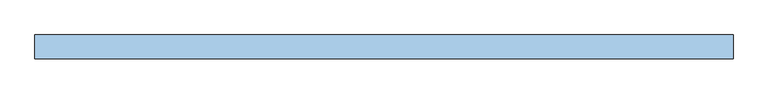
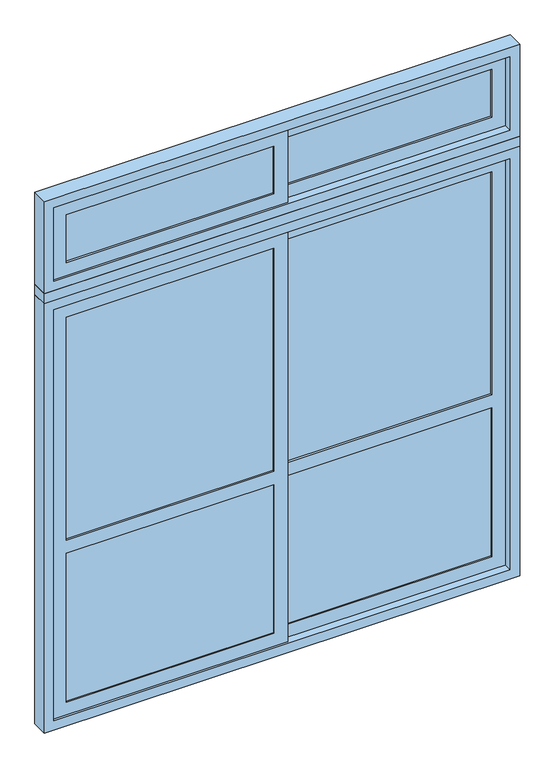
"""IFC4 building model written with IfcOpenShell, lengths in millimetres: window geometry, A7 Ventana_Corrediza_PC_2 hojas : A7.3 Ventana_Corrediza_PC_2 hojas 220x260."""

from ifc_helpers import new_model, si_unit, frame, origin, place, context, project, spatial, polyline, outline, extrude, source, transform, mapped, element, save


def window_bc9f6be7(model_context):
    return source(origin(), model_context, "Body", "SweptSolid", [
        extrude(outline(polyline([(-31.5, 28.0), (-992.0, 28.0), (-992.0, 44.0), (-31.5, 44.0), (-31.5, 28.0)])), frame((0.0, 0.0, 108.0), z_axis=(0.0, 0.0, 1.0), x_axis=(1.0, 0.0, 0.0)), (0.0, 0.0, 1.0), 728.0),
        extrude(outline(polyline([(992.0, 56.0), (31.5, 56.0), (31.5, 72.0), (992.0, 72.0), (992.0, 56.0)])), frame((0.0, 0.0, 108.0), z_axis=(0.0, 0.0, 1.0), x_axis=(1.0, 0.0, 0.0)), (0.0, 0.0, 1.0), 728.0),
        extrude(outline(polyline([(-31.5, 31.5769719), (-992.0, 31.5769719), (-992.0, 40.4230281), (-31.5, 40.4230281), (-31.5, 31.5769719)])), frame((0.0, 0.0, 2258.0), z_axis=(0.0, 0.0, 1.0), x_axis=(1.0, 0.0, 0.0)), (0.0, 0.0, 1.0), 234.0),
        extrude(outline(polyline([(-31.5, 31.5769719), (-992.0, 31.5769719), (-992.0, 40.4230281), (-31.5, 40.4230281), (-31.5, 31.5769719)])), frame((0.0, 0.0, 900.0), z_axis=(0.0, 0.0, 1.0), x_axis=(1.0, 0.0, 0.0)), (0.0, 0.0, 1.0), 1092.0),
        extrude(outline(polyline([(992.0, 59.5769719), (31.5, 59.5769719), (31.5, 68.4230281), (992.0, 68.4230281), (992.0, 59.5769719)])), frame((0.0, 0.0, 2258.0), z_axis=(0.0, 0.0, 1.0), x_axis=(1.0, 0.0, 0.0)), (0.0, 0.0, 1.0), 234.0),
        extrude(outline(polyline([(992.0, 59.5769719), (31.5, 59.5769719), (31.5, 68.4230281), (992.0, 68.4230281), (992.0, 59.5769719)])), frame((0.0, 0.0, 900.0), z_axis=(0.0, 0.0, 1.0), x_axis=(1.0, 0.0, 0.0)), (0.0, 0.0, 1.0), 1092.0),
        extrude(outline(polyline([(45.0, -1055.0), (45.0, 31.5), (2055.0, 31.5), (2055.0, -1055.0), (45.0, -1055.0)]), holes=[polyline([(900.0, -992.0), (1992.0, -992.0), (1992.0, -31.5), (900.0, -31.5), (900.0, -992.0)]), polyline([(108.0, -992.0), (836.0, -992.0), (836.0, -31.5), (108.0, -31.5), (108.0, -992.0)])]), frame((0.0, 22.0, 0.0), z_axis=(0.0, 1.0, 0.0), x_axis=(0.0, 0.0, 1.0)), (0.0, 0.0, 1.0), 28.0),
        extrude(outline(polyline([(2555.0, -1055.0), (2195.0, -1055.0), (2195.0, 31.5), (2555.0, 31.5), (2555.0, -1055.0)]), holes=[polyline([(2258.0, -992.0), (2492.0, -992.0), (2492.0, -31.5), (2258.0, -31.5), (2258.0, -992.0)])]), frame((0.0, 22.0, 0.0), z_axis=(0.0, 1.0, 0.0), x_axis=(0.0, 0.0, 1.0)), (0.0, 0.0, 1.0), 28.0),
        extrude(outline(polyline([(2055.0, 1055.0), (2055.0, -31.5), (45.0, -31.5), (45.0, 1055.0), (2055.0, 1055.0)]), holes=[polyline([(1992.0, 31.5), (1992.0, 992.0), (900.0, 992.0), (900.0, 31.5), (1992.0, 31.5)]), polyline([(836.0, 31.5), (836.0, 992.0), (108.0, 992.0), (108.0, 31.5), (836.0, 31.5)])]), frame((0.0, 50.0, 0.0), z_axis=(0.0, 1.0, 0.0), x_axis=(0.0, 0.0, 1.0)), (0.0, 0.0, 1.0), 28.0),
        extrude(outline(polyline([(2195.0, -31.5), (2195.0, 1055.0), (2555.0, 1055.0), (2555.0, -31.5), (2195.0, -31.5)]), holes=[polyline([(2492.0, 31.5), (2492.0, 992.0), (2258.0, 992.0), (2258.0, 31.5), (2492.0, 31.5)])]), frame((0.0, 50.0, 0.0), z_axis=(0.0, 1.0, 0.0), x_axis=(0.0, 0.0, 1.0)), (0.0, 0.0, 1.0), 28.0),
        extrude(outline(polyline([(2100.0, -1100.0), (0.0, -1100.0), (0.0, 1100.0), (2100.0, 1100.0), (2100.0, -1100.0)]), holes=[polyline([(2055.0, -1055.0), (2055.0, 1055.0), (45.0, 1055.0), (45.0, -1055.0), (2055.0, -1055.0)])]), frame((0.0, 12.5, 0.0), z_axis=(0.0, 1.0, 0.0), x_axis=(0.0, 0.0, 1.0)), (0.0, 0.0, 1.0), 75.0),
        extrude(outline(polyline([(2600.0, -1100.0), (2150.0, -1100.0), (2150.0, 1100.0), (2600.0, 1100.0), (2600.0, -1100.0)]), holes=[polyline([(2555.0, -1055.0), (2555.0, 1055.0), (2195.0, 1055.0), (2195.0, -1055.0), (2555.0, -1055.0)])]), frame((0.0, 12.5, 0.0), z_axis=(0.0, 1.0, 0.0), x_axis=(0.0, 0.0, 1.0)), (0.0, 0.0, 1.0), 75.0),
        extrude(outline(polyline([(1100.0, 12.5), (-1100.0, 12.5), (-1100.0, 87.5), (1100.0, 87.5), (1100.0, 12.5)])), frame((0.0, 0.0, 2100.0), z_axis=(0.0, 0.0, 1.0), x_axis=(1.0, 0.0, 0.0)), (0.0, 0.0, 1.0), 50.0),
    ])


if __name__ == "__main__":
    model = new_model("IFC4")
    model_context = context("Model", 3, world=origin())
    ifc_project = project(units=[si_unit("LENGTHUNIT", "METRE", prefix="MILLI")], contexts=[model_context])
    site = spatial("IfcSite", under=ifc_project)
    building = spatial("IfcBuilding", under=site)
    placement = place(None, origin())
    window_shape = window_bc9f6be7(model_context)
    element("IfcWindow", 1, ObjectType="A7 Ventana_Corrediza_PC_2 hojas : A7.3 Ventana_Corrediza_PC_2 hojas 220x260", at=placement, inside=building, context=model_context, shape_type="MappedRepresentation", body=[
        mapped(window_shape, transform((0.0, 0.0, 0.0), x_axis=(1.0, 0.0, 0.0), y_axis=(0.0, 1.0, 0.0), z_axis=(0.0, 0.0, 1.0))),
    ])
    save(model, "model.ifc")
